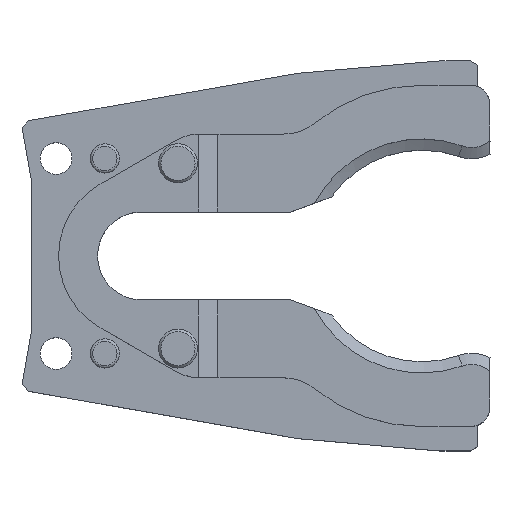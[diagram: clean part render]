
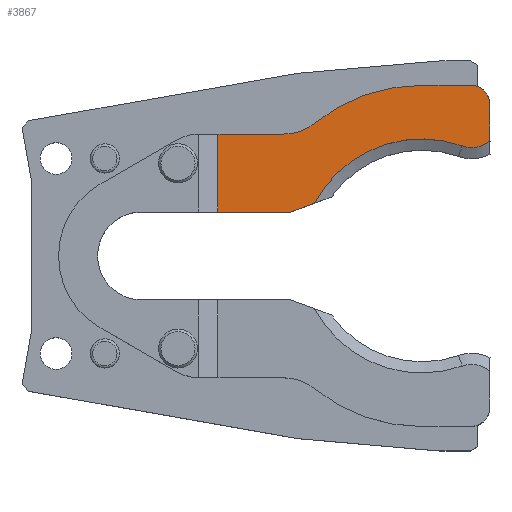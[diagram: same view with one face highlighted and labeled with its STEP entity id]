
A CAD part, top view. The second image highlights one B-rep face of the part: STEP entity #3867.
In plain terms, the highlighted planar face has unit normal (0, 0, 1).
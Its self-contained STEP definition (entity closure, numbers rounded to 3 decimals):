
#114=LINE('',#5404,#378);
#115=LINE('',#5406,#379);
#116=LINE('',#5408,#380);
#117=LINE('',#5414,#381);
#118=LINE('',#5418,#382);
#119=LINE('',#5424,#383);
#378=VECTOR('',#4523,1000.);
#379=VECTOR('',#4526,1000.);
#380=VECTOR('',#4527,1000.);
#381=VECTOR('',#4532,1000.);
#382=VECTOR('',#4535,1000.);
#383=VECTOR('',#4540,1000.);
#594=PLANE('',#4080);
#794=ORIENTED_EDGE('',*,*,#1594,.F.);
#795=ORIENTED_EDGE('',*,*,#1593,.T.);
#796=ORIENTED_EDGE('',*,*,#1595,.T.);
#797=ORIENTED_EDGE('',*,*,#1596,.F.);
#798=ORIENTED_EDGE('',*,*,#1597,.F.);
#799=ORIENTED_EDGE('',*,*,#1598,.T.);
#800=ORIENTED_EDGE('',*,*,#1599,.T.);
#801=ORIENTED_EDGE('',*,*,#1600,.F.);
#802=ORIENTED_EDGE('',*,*,#1601,.F.);
#803=ORIENTED_EDGE('',*,*,#1602,.T.);
#804=ORIENTED_EDGE('',*,*,#1603,.F.);
#1593=EDGE_CURVE('',#1983,#1989,#114,.T.);
#1594=EDGE_CURVE('',#1983,#1990,#115,.T.);
#1595=EDGE_CURVE('',#1989,#1991,#116,.T.);
#1596=EDGE_CURVE('',#1992,#1991,#2208,.T.);
#1597=EDGE_CURVE('',#1993,#1992,#2209,.T.);
#1598=EDGE_CURVE('',#1993,#1994,#117,.T.);
#1599=EDGE_CURVE('',#1994,#1995,#2210,.T.);
#1600=EDGE_CURVE('',#1996,#1995,#118,.T.);
#1601=EDGE_CURVE('',#1997,#1996,#2211,.F.);
#1602=EDGE_CURVE('',#1997,#1998,#2212,.F.);
#1603=EDGE_CURVE('',#1990,#1998,#119,.T.);
#1983=VERTEX_POINT('',#5391);
#1989=VERTEX_POINT('',#5403);
#1990=VERTEX_POINT('',#5407);
#1991=VERTEX_POINT('',#5409);
#1992=VERTEX_POINT('',#5411);
#1993=VERTEX_POINT('',#5413);
#1994=VERTEX_POINT('',#5415);
#1995=VERTEX_POINT('',#5417);
#1996=VERTEX_POINT('',#5419);
#1997=VERTEX_POINT('',#5421);
#1998=VERTEX_POINT('',#5423);
#2208=CIRCLE('',#4081,25.);
#2209=CIRCLE('',#4082,6.);
#2210=CIRCLE('',#4083,4.);
#2211=CIRCLE('',#4084,35.);
#2212=CIRCLE('',#4085,10.);
#2328=EDGE_LOOP('',(#794,#795,#796,#797,#798,#799,#800,#801,#802,#803,#804));
#2518=FACE_BOUND('',#2328,.T.);
#3867=ADVANCED_FACE('',(#2518),#594,.T.);
#4080=AXIS2_PLACEMENT_3D('',#5405,#4524,#4525);
#4081=AXIS2_PLACEMENT_3D('',#5410,#4528,#4529);
#4082=AXIS2_PLACEMENT_3D('',#5412,#4530,#4531);
#4083=AXIS2_PLACEMENT_3D('',#5416,#4533,#4534);
#4084=AXIS2_PLACEMENT_3D('',#5420,#4536,#4537);
#4085=AXIS2_PLACEMENT_3D('',#5422,#4538,#4539);
#4523=DIRECTION('',(1.,0.,0.));
#4524=DIRECTION('',(0.,0.,1.));
#4525=DIRECTION('',(-1.,0.,0.));
#4526=DIRECTION('',(0.,1.,0.));
#4527=DIRECTION('',(0.94,0.342,0.));
#4528=DIRECTION('',(0.,0.,1.));
#4529=DIRECTION('',(-1.,0.,0.));
#4530=DIRECTION('',(0.,0.,-1.));
#4531=DIRECTION('',(1.,0.,0.));
#4532=DIRECTION('',(0.,1.,0.));
#4533=DIRECTION('',(0.,0.,1.));
#4534=DIRECTION('',(-1.,0.,0.));
#4535=DIRECTION('',(1.,0.,0.));
#4536=DIRECTION('',(0.,0.,1.));
#4537=DIRECTION('',(-1.,0.,0.));
#4538=DIRECTION('',(0.,0.,1.));
#4539=DIRECTION('',(-1.,0.,0.));
#4540=DIRECTION('',(1.,0.,0.));
#5391=CARTESIAN_POINT('',(40.2,9.,10.75));
#5403=CARTESIAN_POINT('',(55.,9.,10.75));
#5404=CARTESIAN_POINT('',(82.,9.,10.75));
#5405=CARTESIAN_POINT('',(82.,0.,10.75));
#5406=CARTESIAN_POINT('',(40.2,9.,10.75));
#5407=CARTESIAN_POINT('',(40.2,25.,10.75));
#5408=CARTESIAN_POINT('',(75.949,16.625,10.75));
#5409=CARTESIAN_POINT('',(59.964,10.807,10.75));
#5410=CARTESIAN_POINT('',(82.,-1.,10.75));
#5411=CARTESIAN_POINT('',(90.281,22.589,10.75));
#5412=CARTESIAN_POINT('',(92.268,28.25,10.75));
#5413=CARTESIAN_POINT('',(96.,23.552,10.75));
#5414=CARTESIAN_POINT('',(96.,-36.,10.75));
#5415=CARTESIAN_POINT('',(96.,31.,10.75));
#5416=CARTESIAN_POINT('',(92.,31.,10.75));
#5417=CARTESIAN_POINT('',(92.,35.,10.75));
#5418=CARTESIAN_POINT('',(82.,35.,10.75));
#5419=CARTESIAN_POINT('',(82.,35.,10.75));
#5420=CARTESIAN_POINT('',(82.,0.,10.75));
#5421=CARTESIAN_POINT('',(60.001,27.222,10.75));
#5422=CARTESIAN_POINT('',(53.716,35.,10.75));
#5423=CARTESIAN_POINT('',(53.716,25.,10.75));
#5424=CARTESIAN_POINT('',(82.,25.,10.75));
